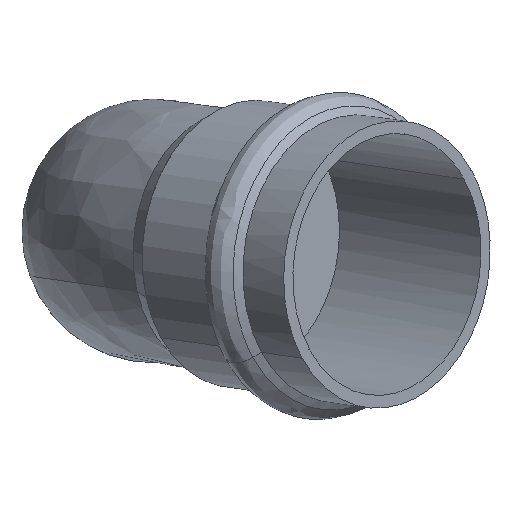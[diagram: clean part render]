
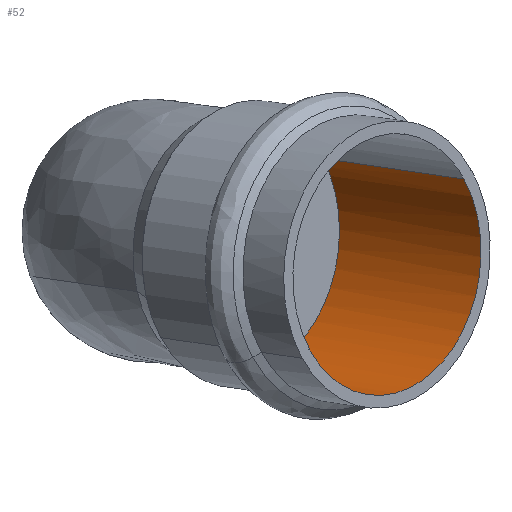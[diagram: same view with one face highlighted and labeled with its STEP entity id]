
A CAD part, top view. The second image highlights one B-rep face of the part: STEP entity #52.
In plain terms, the highlighted cylindrical face has radius 25.37 mm (diameter 50.74 mm), a partial arc.
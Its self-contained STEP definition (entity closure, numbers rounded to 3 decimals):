
#52=ADVANCED_FACE('',(#121),#122,.F.);
#121=FACE_OUTER_BOUND('',#292,.T.);
#122=CYLINDRICAL_SURFACE('',#293,25.37);
#292=EDGE_LOOP('',(#542,#543,#544,#545));
#293=AXIS2_PLACEMENT_3D('',#546,#547,#548);
#542=ORIENTED_EDGE('',*,*,#748,.F.);
#543=ORIENTED_EDGE('',*,*,#749,.F.);
#544=ORIENTED_EDGE('',*,*,#750,.F.);
#545=ORIENTED_EDGE('',*,*,#751,.F.);
#546=CARTESIAN_POINT('',(23.131,-3.414,23.382));
#547=DIRECTION('',(-0.7,0.103,-0.707));
#548=DIRECTION('',(0.586,0.65,-0.485));
#748=EDGE_CURVE('',#844,#845,#846,.T.);
#749=EDGE_CURVE('',#847,#844,#848,.T.);
#750=EDGE_CURVE('',#849,#847,#850,.T.);
#751=EDGE_CURVE('',#845,#849,#851,.T.);
#844=VERTEX_POINT('',#1032);
#845=VERTEX_POINT('',#1033);
#846=LINE('',#1034,#1035);
#847=VERTEX_POINT('',#1036);
#848=(B_SPLINE_CURVE(2,(#1038,#1039,#1040,#1041,#1042),.UNSPECIFIED.,.F.,.F.)B_SPLINE_CURVE_WITH_KNOTS((3,2,3),(-1.571,0.,1.571),.UNSPECIFIED.)RATIONAL_B_SPLINE_CURVE((1.0,0.707,1.0,0.707,1.0))BOUNDED_CURVE()REPRESENTATION_ITEM('')GEOMETRIC_REPRESENTATION_ITEM()CURVE());
#849=VERTEX_POINT('',#1049);
#850=LINE('',#1050,#1051);
#851=(B_SPLINE_CURVE(2,(#1053,#1054,#1055,#1056,#1057),.UNSPECIFIED.,.F.,.F.)B_SPLINE_CURVE_WITH_KNOTS((3,2,3),(-1.571,0.,1.571),.UNSPECIFIED.)RATIONAL_B_SPLINE_CURVE((1.0,0.707,1.0,0.707,1.0))BOUNDED_CURVE()REPRESENTATION_ITEM('')GEOMETRIC_REPRESENTATION_ITEM()CURVE());
#1032=CARTESIAN_POINT('',(32.534,13.877,5.574));
#1033=CARTESIAN_POINT('',(59.815,9.851,33.151));
#1034=CARTESIAN_POINT('',(37.99,13.071,11.089));
#1035=VECTOR('',#1449,1.0);
#1036=CARTESIAN_POINT('',(2.817,-19.093,30.159));
#1038=CARTESIAN_POINT('',(2.817,-19.093,30.159));
#1039=CARTESIAN_POINT('',(13.204,-38.199,17.094));
#1040=CARTESIAN_POINT('',(28.063,-21.714,4.801));
#1041=CARTESIAN_POINT('',(42.921,-5.229,-7.492));
#1042=CARTESIAN_POINT('',(32.534,13.877,5.574));
#1049=CARTESIAN_POINT('',(30.098,-23.119,57.736));
#1050=CARTESIAN_POINT('',(8.273,-19.898,35.675));
#1051=VECTOR('',#1450,1.0);
#1053=CARTESIAN_POINT('',(59.815,9.851,33.151));
#1054=CARTESIAN_POINT('',(70.203,-9.255,20.085));
#1055=CARTESIAN_POINT('',(55.344,-25.74,32.378));
#1056=CARTESIAN_POINT('',(40.486,-42.225,44.671));
#1057=CARTESIAN_POINT('',(30.098,-23.119,57.736));
#1449=DIRECTION('',(0.7,-0.103,0.707));
#1450=DIRECTION('',(-0.7,0.103,-0.707));
